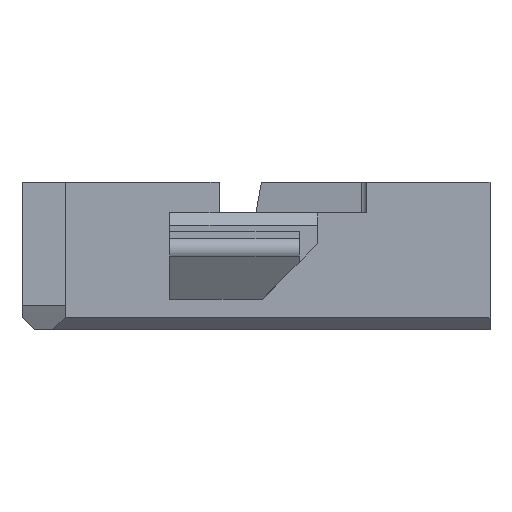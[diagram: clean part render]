
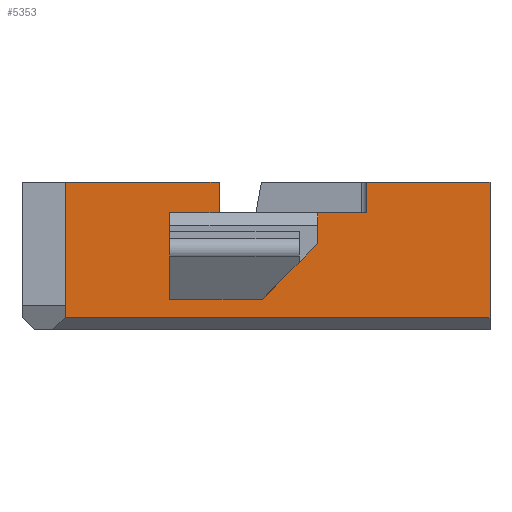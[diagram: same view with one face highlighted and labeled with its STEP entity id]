
A CAD part, left-side view. The second image highlights one B-rep face of the part: STEP entity #5353.
In plain terms, the highlighted planar face has unit normal (-1, 0, 0).
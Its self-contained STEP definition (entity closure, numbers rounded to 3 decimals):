
#307=DIRECTION('',(0.,1.,0.));
#308=VECTOR('',#307,1.);
#309=CARTESIAN_POINT('',(0.25,-3.8,0.));
#310=LINE('',#309,#308);
#315=DIRECTION('',(0.,0.,-1.));
#316=VECTOR('',#315,0.25);
#317=CARTESIAN_POINT('',(0.25,-2.8,0.));
#318=LINE('',#317,#316);
#327=DIRECTION('',(0.,0.,-1.));
#328=VECTOR('',#327,1.1);
#329=CARTESIAN_POINT('',(0.25,-3.8,0.));
#330=LINE('',#329,#328);
#331=DIRECTION('',(0.,1.,0.));
#332=VECTOR('',#331,3.45);
#333=CARTESIAN_POINT('',(0.25,-3.8,-1.1));
#334=LINE('',#333,#332);
#335=DIRECTION('',(0.,0.,-1.));
#336=VECTOR('',#335,0.25);
#337=CARTESIAN_POINT('',(0.25,-1.6,0.));
#338=LINE('',#337,#336);
#339=DIRECTION('',(0.,-1.,0.));
#340=VECTOR('',#339,0.75);
#341=CARTESIAN_POINT('',(0.25,-1.2,-0.95));
#342=LINE('',#341,#340);
#343=DIRECTION('',(0.,-0.707,0.707));
#344=VECTOR('',#343,0.636);
#345=CARTESIAN_POINT('',(0.25,-1.95,-0.95));
#346=LINE('',#345,#344);
#347=DIRECTION('',(0.,0.,1.));
#348=VECTOR('',#347,0.25);
#349=CARTESIAN_POINT('',(0.25,-2.4,-0.5));
#350=LINE('',#349,#348);
#351=DIRECTION('',(0.,1.,0.));
#352=VECTOR('',#351,0.4);
#353=CARTESIAN_POINT('',(0.25,-2.8,-0.25));
#354=LINE('',#353,#352);
#363=DIRECTION('',(0.,-1.,0.));
#364=VECTOR('',#363,0.4);
#365=CARTESIAN_POINT('',(0.25,-1.2,-0.25));
#366=LINE('',#365,#364);
#441=DIRECTION('',(0.,0.,1.));
#442=VECTOR('',#441,0.7);
#443=CARTESIAN_POINT('',(0.25,-1.2,-0.95));
#444=LINE('',#443,#442);
#495=DIRECTION('',(0.,1.,0.));
#496=VECTOR('',#495,1.25);
#497=CARTESIAN_POINT('',(0.25,-1.6,0.));
#498=LINE('',#497,#496);
#595=DIRECTION('',(0.,0.,-1.));
#596=VECTOR('',#595,1.1);
#597=CARTESIAN_POINT('',(0.25,-0.35,0.));
#598=LINE('',#597,#596);
#3900=CARTESIAN_POINT('',(0.25,-2.8,0.));
#3902=VERTEX_POINT('',#3900);
#3959=CARTESIAN_POINT('',(0.25,-3.8,0.));
#3960=VERTEX_POINT('',#3959);
#3961=CARTESIAN_POINT('',(0.25,-2.8,-0.25));
#3962=VERTEX_POINT('',#3961);
#3967=CARTESIAN_POINT('',(0.25,-2.4,-0.25));
#3968=VERTEX_POINT('',#3967);
#3969=CARTESIAN_POINT('',(0.25,-3.8,-1.1));
#3970=VERTEX_POINT('',#3969);
#3971=CARTESIAN_POINT('',(0.25,-0.35,-1.1));
#3972=VERTEX_POINT('',#3971);
#3973=CARTESIAN_POINT('',(0.25,-0.35,0.));
#3974=VERTEX_POINT('',#3973);
#3975=CARTESIAN_POINT('',(0.25,-1.6,0.));
#3976=VERTEX_POINT('',#3975);
#3977=CARTESIAN_POINT('',(0.25,-1.6,-0.25));
#3978=VERTEX_POINT('',#3977);
#3979=CARTESIAN_POINT('',(0.25,-1.2,-0.25));
#3980=VERTEX_POINT('',#3979);
#3981=CARTESIAN_POINT('',(0.25,-1.2,-0.95));
#3982=VERTEX_POINT('',#3981);
#3983=CARTESIAN_POINT('',(0.25,-1.95,-0.95));
#3984=VERTEX_POINT('',#3983);
#3985=CARTESIAN_POINT('',(0.25,-2.4,-0.5));
#3986=VERTEX_POINT('',#3985);
#5322=CARTESIAN_POINT('',(0.25,-3.8,0.));
#5323=DIRECTION('',(1.,0.,0.));
#5324=DIRECTION('',(0.,1.,0.));
#5325=AXIS2_PLACEMENT_3D('',#5322,#5323,#5324);
#5326=PLANE('',#5325);
#5328=ORIENTED_EDGE('',*,*,#5327,.F.);
#5329=ORIENTED_EDGE('',*,*,#5311,.F.);
#5330=ORIENTED_EDGE('',*,*,#5300,.F.);
#5332=ORIENTED_EDGE('',*,*,#5331,.T.);
#5334=ORIENTED_EDGE('',*,*,#5333,.T.);
#5336=ORIENTED_EDGE('',*,*,#5335,.F.);
#5338=ORIENTED_EDGE('',*,*,#5337,.F.);
#5340=ORIENTED_EDGE('',*,*,#5339,.T.);
#5342=ORIENTED_EDGE('',*,*,#5341,.F.);
#5344=ORIENTED_EDGE('',*,*,#5343,.F.);
#5346=ORIENTED_EDGE('',*,*,#5345,.T.);
#5348=ORIENTED_EDGE('',*,*,#5347,.T.);
#5350=ORIENTED_EDGE('',*,*,#5349,.T.);
#5351=EDGE_LOOP('',(#5328,#5329,#5330,#5332,#5334,#5336,#5338,#5340,#5342,#5344,
#5346,#5348,#5350));
#5352=FACE_OUTER_BOUND('',#5351,.F.);
#5353=ADVANCED_FACE('',(#5352),#5326,.F.);
#5300=EDGE_CURVE('',#3960,#3902,#310,.T.);
#5311=EDGE_CURVE('',#3902,#3962,#318,.T.);
#5327=EDGE_CURVE('',#3962,#3968,#354,.T.);
#5331=EDGE_CURVE('',#3960,#3970,#330,.T.);
#5333=EDGE_CURVE('',#3970,#3972,#334,.T.);
#5335=EDGE_CURVE('',#3974,#3972,#598,.T.);
#5337=EDGE_CURVE('',#3976,#3974,#498,.T.);
#5339=EDGE_CURVE('',#3976,#3978,#338,.T.);
#5341=EDGE_CURVE('',#3980,#3978,#366,.T.);
#5343=EDGE_CURVE('',#3982,#3980,#444,.T.);
#5345=EDGE_CURVE('',#3982,#3984,#342,.T.);
#5347=EDGE_CURVE('',#3984,#3986,#346,.T.);
#5349=EDGE_CURVE('',#3986,#3968,#350,.T.);
